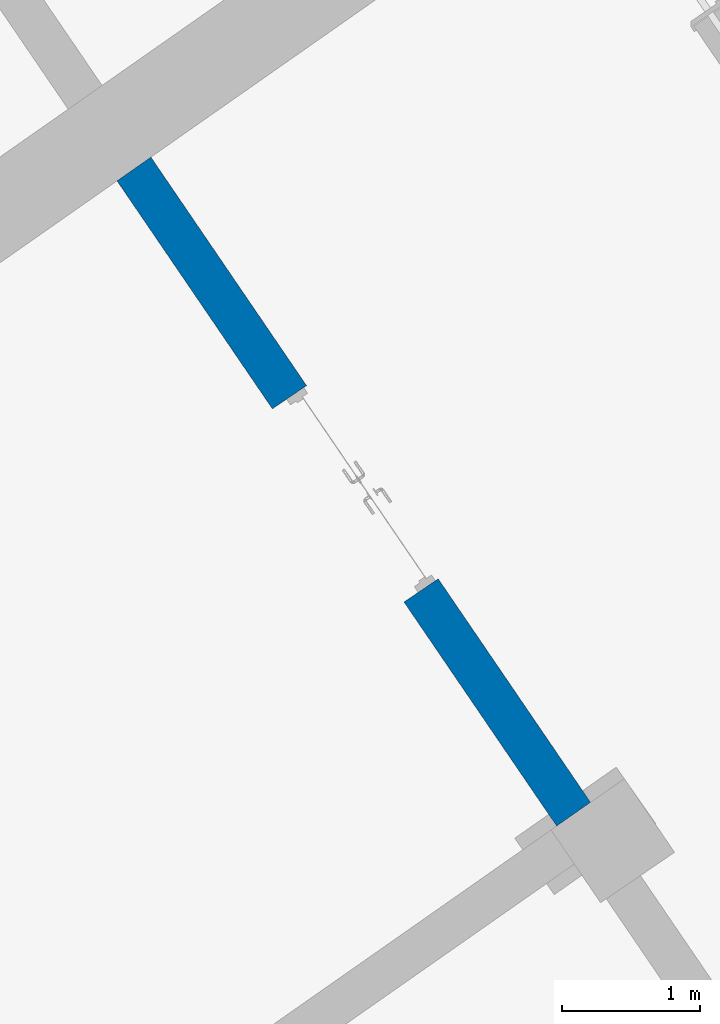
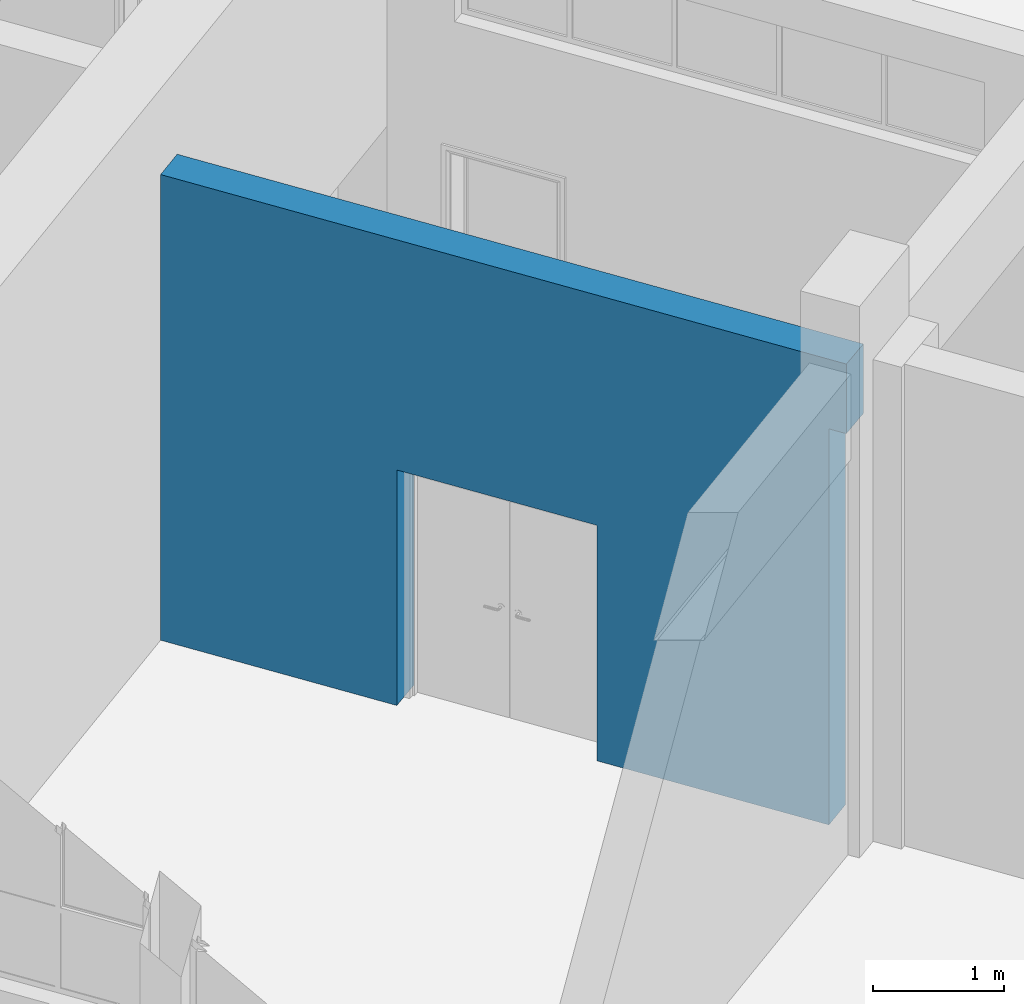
# One storey, part 110 of 157: 1 wall, 1 opening.
"""IFC2X3 building model written with IfcOpenShell, lengths in millimetres."""

from ifc_helpers import new_model, entity, si_unit, converted_unit, derived_unit, direction, frame, frame_2d, origin, place, context, subcontext, project, spatial, rectangle, extrude, faceted_brep, material, layer, layer_set, type_object, element, save


model = new_model("IFC2X3")

# Units and contexts
model_context = context("Model", 3, precision=0.01, world=origin(), true_north=direction((6.123031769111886e-17, 1.0)))
body_context = subcontext(model_context, "Body", "Model", "MODEL_VIEW")
ifc_project = project(units=[si_unit("LENGTHUNIT", "METRE", prefix="MILLI"), si_unit("AREAUNIT", "SQUARE_METRE"), si_unit("VOLUMEUNIT", "CUBIC_METRE"), converted_unit("PLANEANGLEUNIT", "DEGREE", entity("IfcRatioMeasure", 0.017453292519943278), si_unit("PLANEANGLEUNIT", "RADIAN"), dimensions=[0, 0, 0, 0, 0, 0, 0]), si_unit("MASSUNIT", "GRAM", prefix="KILO"), derived_unit("MASSDENSITYUNIT", [(si_unit("MASSUNIT", "GRAM", prefix="KILO"), 1), (si_unit("LENGTHUNIT", "METRE"), -3)]), derived_unit("MOMENTOFINERTIAUNIT", [(si_unit("LENGTHUNIT", "METRE"), 4)]), si_unit("TIMEUNIT", "SECOND"), si_unit("FREQUENCYUNIT", "HERTZ"), si_unit("THERMODYNAMICTEMPERATUREUNIT", "DEGREE_CELSIUS"), derived_unit("THERMALTRANSMITTANCEUNIT", [(si_unit("MASSUNIT", "GRAM", prefix="KILO"), 1), (si_unit("THERMODYNAMICTEMPERATUREUNIT", "KELVIN"), -1), (si_unit("TIMEUNIT", "SECOND"), -3)]), derived_unit("THERMALCONDUCTANCEUNIT", [(si_unit("MASSUNIT", "GRAM", prefix="KILO"), 1), (si_unit("LENGTHUNIT", "METRE"), 1), (si_unit("THERMODYNAMICTEMPERATUREUNIT", "KELVIN"), -1), (si_unit("TIMEUNIT", "SECOND"), -3)]), derived_unit("VOLUMETRICFLOWRATEUNIT", [(si_unit("LENGTHUNIT", "METRE"), 3), (si_unit("TIMEUNIT", "SECOND"), -1)]), derived_unit("MASSFLOWRATEUNIT", [(si_unit("MASSUNIT", "GRAM", prefix="KILO"), 1), (si_unit("TIMEUNIT", "SECOND"), -1)]), derived_unit("ROTATIONALFREQUENCYUNIT", [(si_unit("TIMEUNIT", "SECOND"), -1)]), si_unit("ELECTRICCURRENTUNIT", "AMPERE"), si_unit("ELECTRICVOLTAGEUNIT", "VOLT"), si_unit("POWERUNIT", "WATT"), converted_unit("FORCEUNIT", "KIP", entity("IfcRatioMeasure", 2.088543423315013e-05), si_unit("FORCEUNIT", "NEWTON"), dimensions=[1, 1, -2, 0, 0, 0, 0]), si_unit("ILLUMINANCEUNIT", "LUX"), si_unit("LUMINOUSFLUXUNIT", "LUMEN"), si_unit("LUMINOUSINTENSITYUNIT", "CANDELA"), derived_unit("USERDEFINED", [(si_unit("MASSUNIT", "GRAM", prefix="KILO"), -1), (si_unit("LENGTHUNIT", "METRE"), -2), (si_unit("TIMEUNIT", "SECOND"), 3), (si_unit("LUMINOUSFLUXUNIT", "LUMEN"), 1)]), derived_unit("USERDEFINED", [(si_unit("MASSUNIT", "GRAM", prefix="KILO"), 1), (si_unit("LENGTHUNIT", "METRE"), 3), (si_unit("TIMEUNIT", "SECOND"), -3), (si_unit("ELECTRICCURRENTUNIT", "AMPERE"), -2)]), derived_unit("USERDEFINED", [(si_unit("LENGTHUNIT", "METRE"), 2), (si_unit("TIMEUNIT", "SECOND"), -2)]), derived_unit("SOUNDPOWERUNIT", [(si_unit("MASSUNIT", "GRAM", prefix="KILO"), 1), (si_unit("LENGTHUNIT", "METRE"), 2), (si_unit("TIMEUNIT", "SECOND"), -3)]), derived_unit("SOUNDPRESSUREUNIT", [(si_unit("MASSUNIT", "GRAM", prefix="KILO"), 1), (si_unit("LENGTHUNIT", "METRE"), -1), (si_unit("TIMEUNIT", "SECOND"), -2)]), derived_unit("LINEARVELOCITYUNIT", [(si_unit("LENGTHUNIT", "METRE"), 1), (si_unit("TIMEUNIT", "SECOND"), -1)]), si_unit("PRESSUREUNIT", "PASCAL"), derived_unit("USERDEFINED", [(si_unit("LENGTHUNIT", "METRE"), -2), (si_unit("MASSUNIT", "GRAM", prefix="KILO"), 1), (si_unit("TIMEUNIT", "SECOND"), -2)]), derived_unit("LINEARFORCEUNIT", [(si_unit("MASSUNIT", "GRAM", prefix="KILO"), 1), (si_unit("LENGTHUNIT", "METRE"), 1), (si_unit("TIMEUNIT", "SECOND"), -2), (si_unit("LENGTHUNIT", "METRE"), -1)]), derived_unit("PLANARFORCEUNIT", [(si_unit("MASSUNIT", "GRAM", prefix="KILO"), 1), (si_unit("LENGTHUNIT", "METRE"), 1), (si_unit("TIMEUNIT", "SECOND"), -2), (si_unit("LENGTHUNIT", "METRE"), -2)]), derived_unit("SPECIFICHEATCAPACITYUNIT", [(si_unit("LENGTHUNIT", "METRE"), 2), (si_unit("TIMEUNIT", "SECOND"), -2), (si_unit("THERMODYNAMICTEMPERATUREUNIT", "KELVIN"), -1)]), derived_unit("VAPORPERMEABILITYUNIT", [(si_unit("TIMEUNIT", "SECOND"), 1), (si_unit("LENGTHUNIT", "METRE"), -1)]), derived_unit("DYNAMICVISCOSITYUNIT", [(si_unit("MASSUNIT", "GRAM", prefix="KILO"), 1), (si_unit("LENGTHUNIT", "METRE"), -1), (si_unit("TIMEUNIT", "SECOND"), -1)]), derived_unit("THERMALEXPANSIONCOEFFICIENTUNIT", [(si_unit("THERMODYNAMICTEMPERATUREUNIT", "KELVIN"), -1)])], contexts=[model_context])

# Site, building, storey
site_placement = place(None, frame((0.0, 0.0, 0.0), z_axis=(0.0, 0.0, 1.0), x_axis=(0.8191520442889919, 0.5735764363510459, 0.0)))
site = spatial("IfcSite", under=ifc_project, at=site_placement, Name="Default", CompositionType="ELEMENT")
building_placement = place(site_placement, origin())
building = spatial("IfcBuilding", under=site, at=building_placement, CompositionType="ELEMENT")
storey_placement = place(building_placement, origin())
storey = spatial("IfcBuildingStorey", under=building, at=storey_placement, Name="1.EG +0.00", CompositionType="ELEMENT", Elevation=-4.331468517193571e-12)

# Wall, opening
ifc_material = material(Name="Analytical Wall Surface_CJC")
ifc_layer = layer(ifc_material, 300.0)
ifc_layer_set = layer_set([ifc_layer], Name="Basic Wall:Wand_Innen_30")
wall_type = type_object("IfcWallType", Name="Basic Wall:Wand_Innen_30", PredefinedType="STANDARD", material=ifc_layer_set)
wall_placement = place(storey_placement, frame((-217155.47707640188, 97394.41432674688, 0.0), z_axis=(0.0, 0.0, 1.0), x_axis=(0.012736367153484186, 0.9999188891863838, 0.0)))
wall = element("IfcWall", 1, at=wall_placement, inside=storey, type_object=wall_type, Name="Basic Wall:Wand_Innen_30", ObjectType="Basic Wall:Wand_Innen_30", context=body_context, shape_type="Brep", body=[
    faceted_brep([(5829.327864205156, -150.0, 4350.0), (253.87563473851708, -150.0, 4350.0), (1.594673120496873, -150.0, 4350.0), (0.0, -150.0, 4350.0), (0.0, -150.0, 3700.0), (1.5946731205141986, -150.0, 3700.0), (151.9227776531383, -150.0, 3700.0), (151.9227776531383, -150.0, 0.0), (253.87563473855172, -150.0, 0.0), (2119.050000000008, -150.0, 0.0), (2119.0500000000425, -150.0, 2200.0), (3819.0500000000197, -150.0, 2200.0), (3819.0500000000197, -150.0, 0.0), (5829.327864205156, -150.0, 0.0), (0.0, 150.0, 4350.0), (1.594673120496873, 150.0, 4350.0), (250.054414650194, 150.0, 4350.0), (5825.506644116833, 150.0, 4350.0), (5825.506644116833, 150.0, 0.0), (3819.050000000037, 150.0, 0.0), (3819.0500000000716, 150.0, 2200.0), (2119.050000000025, 150.0, 2200.0), (2119.050000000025, 150.0, 0.0), (250.05441465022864, 150.0, 0.0), (148.10155756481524, 150.0, 0.0), (148.10155756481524, 150.0, 3700.0), (1.594673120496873, 150.0, 3700.0), (0.0, 150.0, 3700.0)], [[[0, 1, 2, 3, 4, 5, 6, 7, 8, 9, 10, 11, 12, 13]], [[14, 15, 16, 17, 18, 19, 20, 21, 22, 23, 24, 25, 26, 27]], [[7, 24, 23, 22, 9, 8]], [[3, 2, 1, 0, 17, 16, 15, 14]], [[0, 13, 18, 17]], [[3, 14, 27, 4]], [[4, 27, 26, 25, 6, 5]], [[7, 6, 25, 24]], [[21, 10, 9, 22]], [[10, 21, 20, 11]], [[11, 20, 19, 12]], [[18, 13, 12, 19]]]),
])
opening_placement = place(wall_placement, frame((3819.0500000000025, 150.0, 0.0)))
element("IfcOpeningElement", 2, at=opening_placement, cuts=wall, Name="M_Door-Passage-Double-Flush:160x210:1", ObjectType="Opening", context=body_context, shape_type="SweptSolid", body=[
    extrude(rectangle(XDim=2200.0, YDim=1699.9999999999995, at=frame_2d((1100.0, 849.9999999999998), x_axis=(1.0, 0.0))), frame((0.0, 0.0, 0.0), z_axis=(0.0, -1.0, 0.0), x_axis=(0.0, 0.0, 1.0)), (0.0, 0.0, 1.0), 300.0),
])

save(model, "model.ifc")
